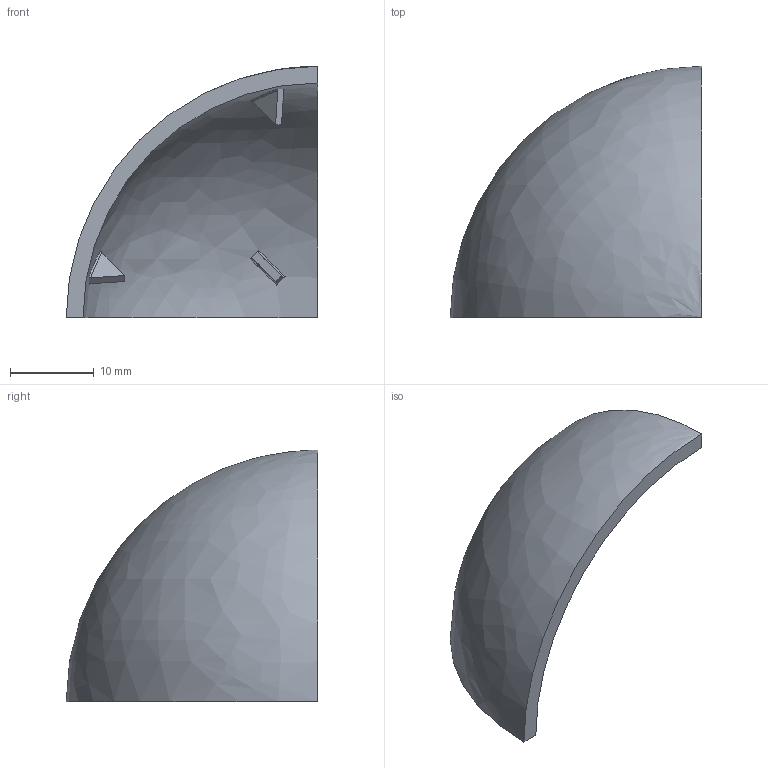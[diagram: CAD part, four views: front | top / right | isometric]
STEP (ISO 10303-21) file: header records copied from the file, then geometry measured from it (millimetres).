
FILE_DESCRIPTION (( 'STEP AP203' ), '1' );
FILE_NAME ('DEC3030R.STEP', '2022-06-23T06:06:15', ( '' ), ( '' ), 'SwSTEP 2.0', 'SolidWorks 2017', '' );
FILE_SCHEMA (( 'CONFIG_CONTROL_DESIGN' ));
Length unit declared in the file: millimetre
Products named in the file (1): DEC3030R
Bounding box: 30 x 30 x 30 mm (x, y, z)
Volume: 2671.6 mm3; surface area: 2986.4 mm2
Topology: 1 solids, 1 shells, 23 faces, 56 edges, 36 vertices
Faces by surface type: plane 12, torus 6, cylinder 3, bspline 2
Entity records: 879 total; most frequent: CARTESIAN_POINT 309, ORIENTED_EDGE 108, DIRECTION 91, EDGE_CURVE 54, AXIS2_PLACEMENT_3D 38, VERTEX_POINT 36, EDGE_LOOP 26, ADVANCED_FACE 23
